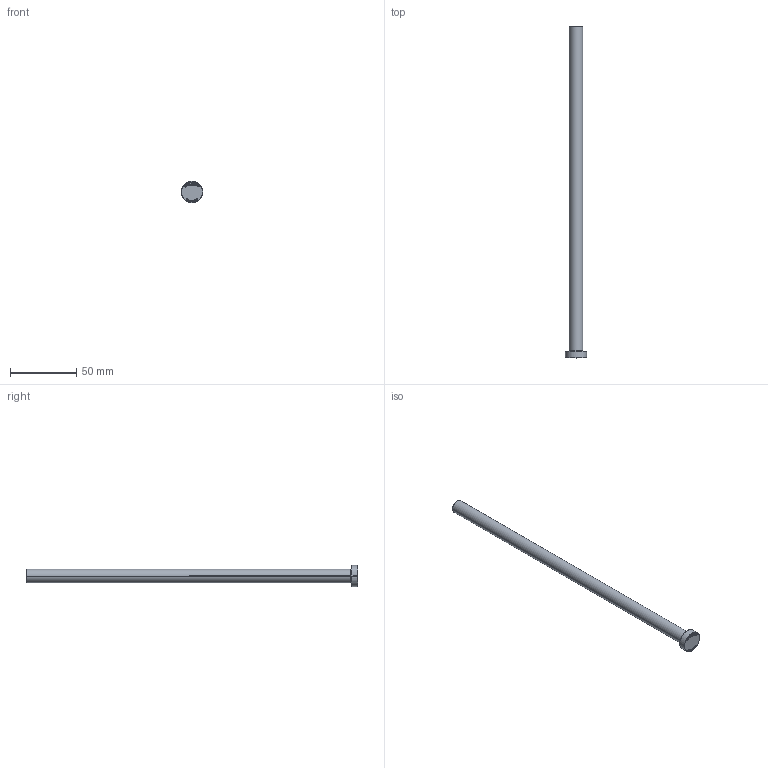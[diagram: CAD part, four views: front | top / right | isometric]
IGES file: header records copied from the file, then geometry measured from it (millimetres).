
Start section: SolidWorks IGES file using analytic representation for surfaces
Global section: file name: C:\Users\User\Downloads\Matripeça 31-08 tar\PB - PINO EXTRATOR TIPO _B_ (CATÁLOGO)\PB10,0\PB10,0250.IGS; native system: SolidWorks 2024; preprocessor: SolidWorks 2024; author: User; date: 260901.150432; units: millimetre
Bounding box: 16 x 250 x 16 mm (x, y, z)
Surface area: 8356.3 mm2 (no closed solid volume)
Topology: 0 solids, 0 shells, 398 faces, 3966 edges, 3966 vertices
Faces by surface type: bspline 384, revolution 14
